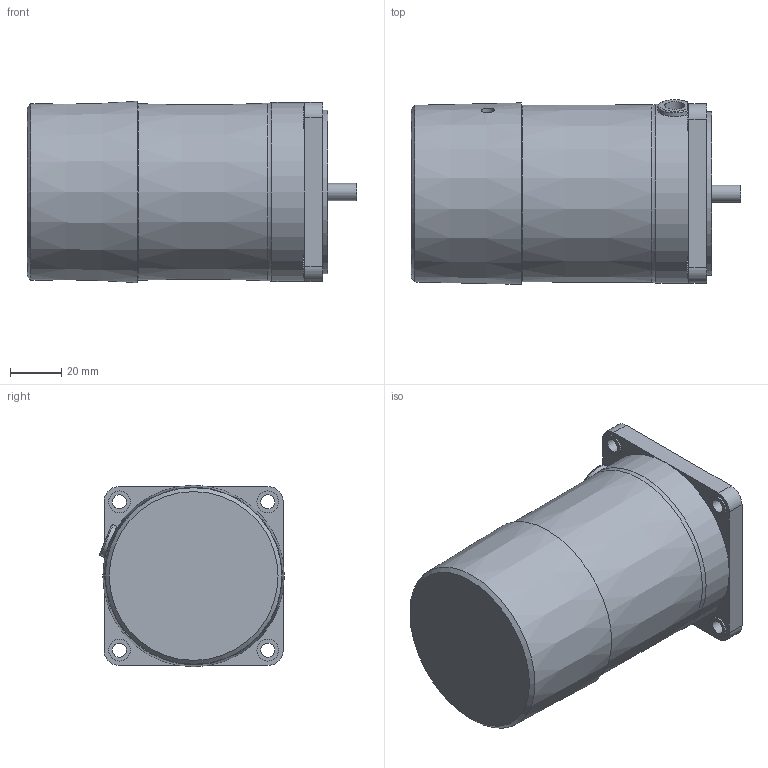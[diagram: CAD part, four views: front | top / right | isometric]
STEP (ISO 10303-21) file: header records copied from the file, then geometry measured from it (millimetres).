
FILE_DESCRIPTION((''),'2;1');
FILE_NAME('D:\STP파일\15W MOTOR\BLACK TYPE\S7R15G-E.stp','2013-05-20T15:59:16',('leebh'),(''),'Autodesk Inventor 2011','Autodesk Inventor 2011','');
FILE_SCHEMA(('AUTOMOTIVE_DESIGN { 1 0 10303 214 1 1 1 1 }'));
Length unit declared in the file: millimetre
Products named in the file (1): 부품2
Bounding box: 128.9 x 72.2 x 70.94 mm (x, y, z)
Volume: 443248.8 mm3; surface area: 38717.1 mm2
Topology: 1 solids, 3 shells, 90 faces, 208 edges, 137 vertices
Faces by surface type: plane 51, cylinder 33, cone 4, torus 2
Full cylindrical faces by diameter (mm): 5 x1, 5.5 x4, 6.7 x1, 8 x1, 8.5 x4, 10 x1, 28 x1, 64 x1, 68 x1, 70 x1
Entity records: 2533 total; most frequent: CARTESIAN_POINT 499, DIRECTION 434, ORIENTED_EDGE 362, EDGE_CURVE 181, AXIS2_PLACEMENT_3D 171, EDGE_LOOP 134, VERTEX_POINT 131, VECTOR 92
